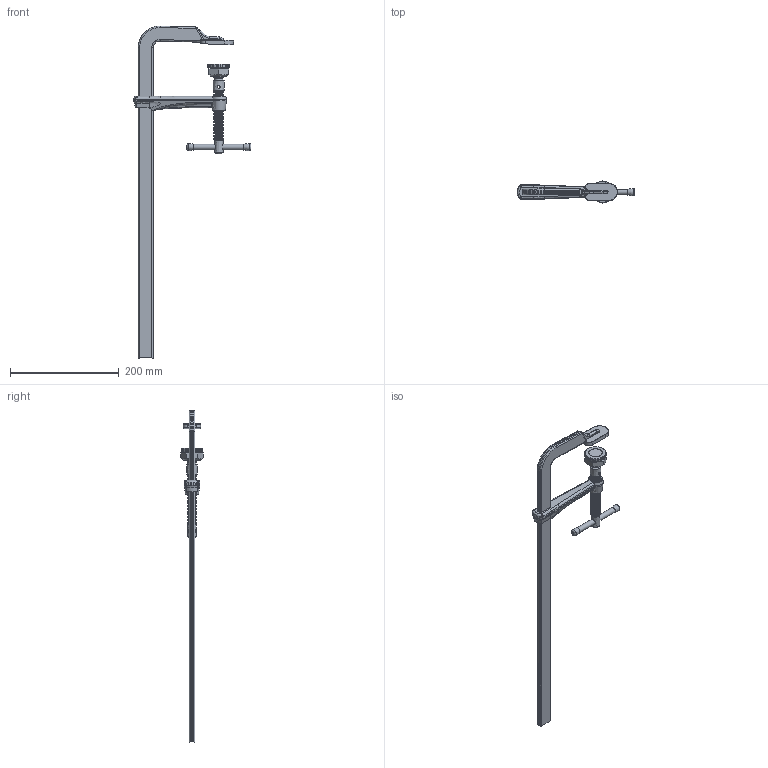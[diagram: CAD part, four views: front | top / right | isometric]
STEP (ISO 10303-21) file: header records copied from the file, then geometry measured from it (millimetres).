
FILE_DESCRIPTION( ('This file contains a STEP AP42 implementation' ,'as created by ZW3D STEP Interface translator.') ,'2;1' );
FILE_NAME( 'SL50_kpl_28x11.stp' ,'20 630.10 5 6', (''), ('ZWCAD Software Co.'), 'Version 1.0', 'ZW3D to STEP translator', '' );
FILE_SCHEMA(('AUTOMOTIVE_DESIGN'));
Length unit declared in the file: millimetre
Products named in the file (10): 0; GSL50_kpl_28x11; GSL50_Festbügel_28x11; Gleitb_kpl_SL-M; Gleitbuegel_28x11_120mod; Spindel_kpl_SGL-M; Spindel_SGL-M; Druckplatte_kpl_HLZ_2.-Line; 3007071_Bolzen_HLZ; 3008298b
Assembly tree (8 placements, depth 4):
  0
  GSL50_kpl_28x11
    GSL50_Festbügel_28x11
    Gleitb_kpl_SL-M
      Gleitbuegel_28x11_120mod
      Spindel_kpl_SGL-M
        Spindel_SGL-M
      Druckplatte_kpl_HLZ_2.-Line
        3007071_Bolzen_HLZ
        3008298b
Bounding box: 216.39 x 41.57 x 609.88 mm (x, y, z)
Volume: 314662.9 mm3; surface area: 96624.3 mm2
Topology: 6 solids, 16 shells, 426 faces, 1014 edges, 678 vertices
Faces by surface type: bspline 426
Entity records: 46064 total; most frequent: CARTESIAN_POINT 39906, ORIENTED_EDGE 1872, EDGE_CURVE 945, B_SPLINE_CURVE_WITH_KNOTS 558, VERTEX_POINT 538, EDGE_LOOP 445, FACE_OUTER_BOUND 426, ADVANCED_FACE 426
